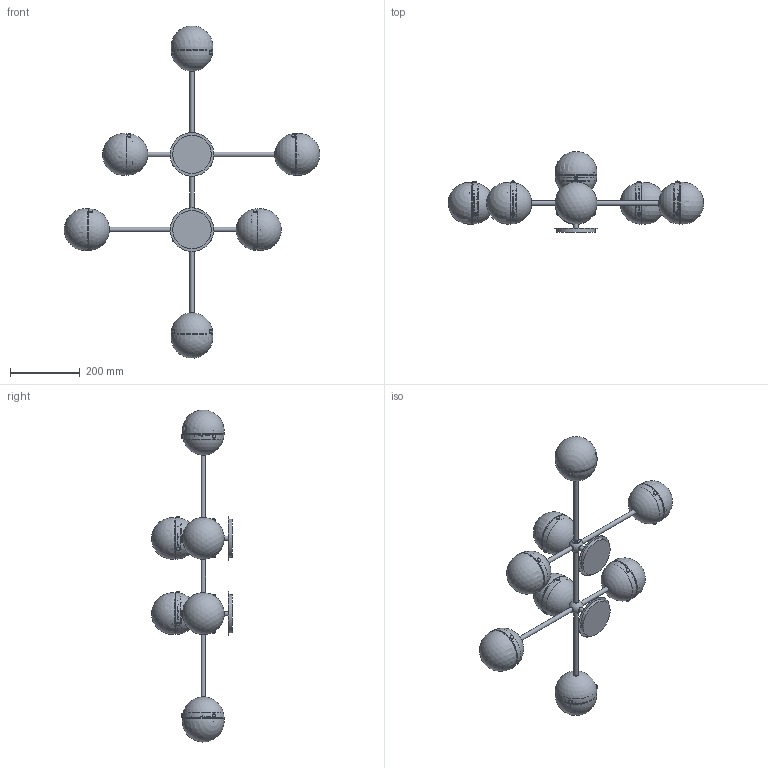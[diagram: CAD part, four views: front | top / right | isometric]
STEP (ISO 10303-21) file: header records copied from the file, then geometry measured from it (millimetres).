
FILE_DESCRIPTION(/* description */ (''),/* implementation_level */ '2;1');
FILE_NAME(/* name */ 'T:\B331 Molecule Flat Sconce\Pliki bryłowe handlowe\B331 Molecule 8 3D files_na stronę\B331 Molecule 8.stp',/* time_stamp */ '2022-02-02T15:48:37+01:00',/* author */ ('Mariusz Awariusz'),/* organization */ (''),/* preprocessor_version */ 'ST-DEVELOPER v18.1',/* originating_system */ 'Autodesk Inventor 2022',/* authorisation */ '');
FILE_SCHEMA (('AUTOMOTIVE_DESIGN { 1 0 10303 214 3 1 1 }'));
Length unit declared in the file: millimetre
Products named in the file (1): B331 Molecule Flat Sconce z kloszami_na potrzeby plików 3D_jako c
zęść_korpusy bryłowe
Bounding box: 731.86 x 231.26 x 951.32 mm (x, y, z)
Volume: 1051069.2 mm3; surface area: 1049924.9 mm2
Topology: 1499 solids, 1499 shells, 12175 faces, 27433 edges, 18234 vertices
Faces by surface type: plane 10200, cylinder 1589, bspline 192, torus 80, sphere 62, cone 52
Full cylindrical faces by diameter (mm): 3.242 x24, 3.7 x2, 4 x24, 6 x24, 10 x10, 11.6 x8, 11.917 x2, 13 x17, 13.5 x10, 20.6 x2, 22 x2, 23.1 x2, 23.5 x2, 109 x8, 110 x2, 112 x8, 125 x2
Entity records: 342598 total; most frequent: CARTESIAN_POINT 67939, ORIENTED_EDGE 54802, DIRECTION 54473, EDGE_CURVE 27401, LINE 23241, VECTOR 23241, VERTEX_POINT 18234, AXIS2_PLACEMENT_3D 15616
